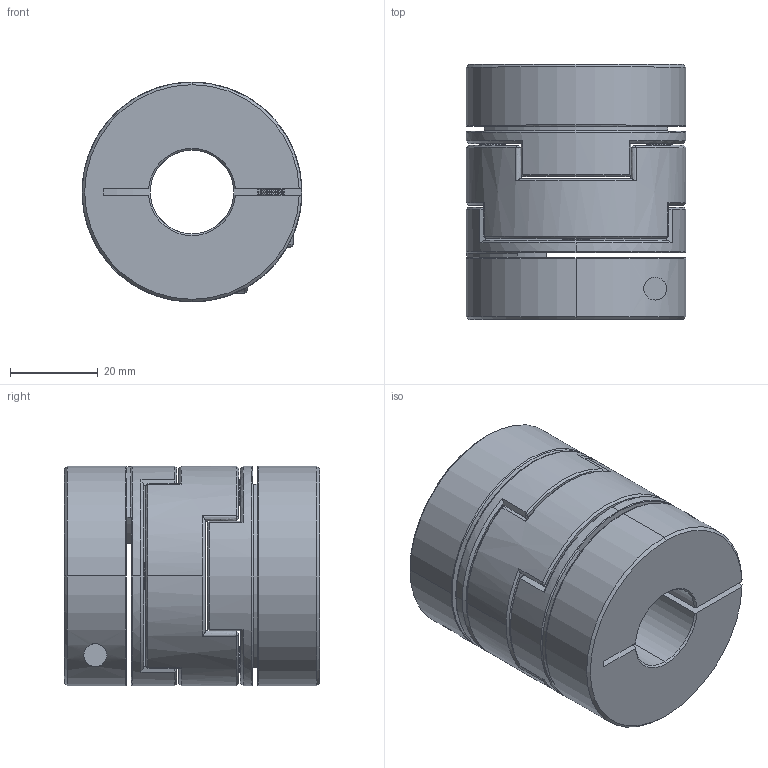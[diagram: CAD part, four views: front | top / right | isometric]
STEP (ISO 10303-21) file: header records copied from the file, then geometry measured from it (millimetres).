
FILE_DESCRIPTION (( 'STEP AP203' ), '1' );
FILE_NAME ('LZ-B-D50L58-19-22.STEP', '2021-10-29T08:15:18', ( '' ), ( '' ), 'SwSTEP 2.0', 'SolidWorks 2018', '' );
FILE_SCHEMA (( 'CONFIG_CONTROL_DESIGN' ));
Length unit declared in the file: millimetre
Products named in the file (1): LZ-B-D50L58-19-22
Bounding box: 50 x 58 x 50 mm (x, y, z)
Volume: 86899 mm3; surface area: 29659.9 mm2
Topology: 1 solids, 27 shells, 560 faces, 1364 edges, 810 vertices
Faces by surface type: cone 252, cylinder 160, plane 90, bspline 54, torus 4
Entity records: 17422 total; most frequent: CARTESIAN_POINT 4342, DIRECTION 2782, ORIENTED_EDGE 2720, EDGE_CURVE 1360, AXIS2_PLACEMENT_3D 1123, VERTEX_POINT 810, CIRCLE 616, EDGE_LOOP 594
